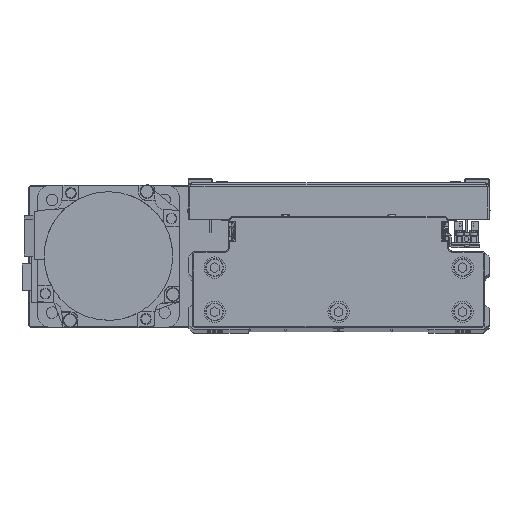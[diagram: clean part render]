
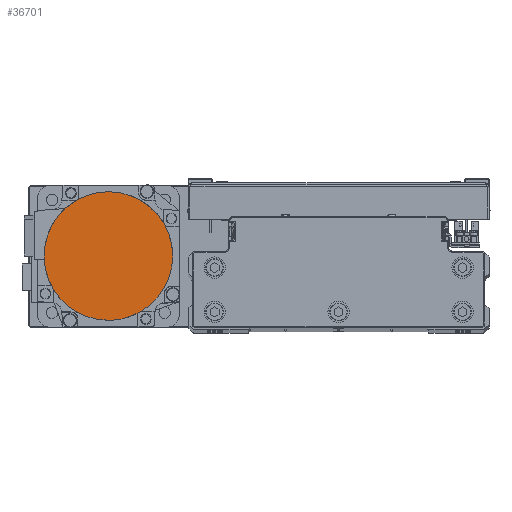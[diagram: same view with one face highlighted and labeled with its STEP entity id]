
A CAD part, top view. The second image highlights one B-rep face of the part: STEP entity #36701.
In plain terms, the highlighted planar face has unit normal (0, 0, 1) as drawn and (0, 0, -1) by its records, which use the part's own axes.
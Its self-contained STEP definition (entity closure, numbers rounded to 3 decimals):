
#232 = DIRECTION ( 'NONE',  ( 0., 0., 1. ) ) ;
#1247 = ORIENTED_EDGE ( 'NONE', *, *, #13537, .F. ) ;
#1422 = CIRCLE ( 'NONE', #7276, 36.3 ) ;
#2113 = CARTESIAN_POINT ( 'NONE',  ( -11.696, 34.446, -122.2 ) ) ;
#2326 = CARTESIAN_POINT ( 'NONE',  ( -36.3, 0., -122.2 ) ) ;
#2367 = DIRECTION ( 'NONE',  ( 0., 0., 1. ) ) ;
#3069 = CARTESIAN_POINT ( 'NONE',  ( -32.628, -16.086, -122.2 ) ) ;
#5012 = CARTESIAN_POINT ( 'NONE',  ( -36.3, 0., -122.2 ) ) ;
#5552 = CARTESIAN_POINT ( 'NONE',  ( -2.376, 36.3, -122.2 ) ) ;
#5768 = CARTESIAN_POINT ( 'NONE',  ( -35.139, 9.412, -122.2 ) ) ;
#5806 = FACE_OUTER_BOUND ( 'NONE', #30659, .T. ) ;
#6155 = DIRECTION ( 'NONE',  ( 0., 0., 1. ) ) ;
#6244 = EDGE_CURVE ( 'NONE', #9549, #44007, #1422, .T. ) ;
#6492 = CARTESIAN_POINT ( 'NONE',  ( -36.066, -4.752, -122.2 ) ) ;
#6719 = CARTESIAN_POINT ( 'NONE',  ( -4.752, -36.066, -122.2 ) ) ;
#7276 = AXIS2_PLACEMENT_3D ( 'NONE', #31518, #232, #14194 ) ;
#7501 = B_SPLINE_CURVE_WITH_KNOTS ( 'NONE', 3,
 ( #23840, #37778, #6492, #20417, #34349, #3069, #17007, #30929, #44828, #13604, #27490, #41421, #10163, #24061, #37999, #6719, #20643, #34583 ),
 .UNSPECIFIED., .F., .F.,
 ( 4, 2, 2, 2, 2, 2, 2, 2, 4 ),
 ( 0., 0.125, 0.25, 0.375, 0.5, 0.625, 0.75, 0.875, 1. ),
 .UNSPECIFIED. ) ;
#7629 = AXIS2_PLACEMENT_3D ( 'NONE', #37436, #6155, #20076 ) ;
#9208 = CARTESIAN_POINT ( 'NONE',  ( -31.502, 18.192, -122.2 ) ) ;
#9549 = VERTEX_POINT ( 'NONE', #28673 ) ;
#9777 = ORIENTED_EDGE ( 'NONE', *, *, #6244, .F. ) ;
#10163 = CARTESIAN_POINT ( 'NONE',  ( -16.086, -32.628, -122.2 ) ) ;
#11078 = B_SPLINE_CURVE_WITH_KNOTS ( 'NONE', 3,
 ( #36828, #5552, #19471, #33403, #2113, #16055, #29963, #43867, #12638, #26523, #40469, #9208, #23111, #37054, #5768, #19686, #33623, #2326 ),
 .UNSPECIFIED., .F., .F.,
 ( 4, 2, 2, 2, 2, 2, 2, 2, 4 ),
 ( 0., 0.125, 0.25, 0.375, 0.5, 0.625, 0.75, 0.875, 1. ),
 .UNSPECIFIED. ) ;
#11562 = CARTESIAN_POINT ( 'NONE',  ( 0., 36.3, -122.2 ) ) ;
#12638 = CARTESIAN_POINT ( 'NONE',  ( -23.988, 27.348, -122.2 ) ) ;
#13537 = EDGE_CURVE ( 'NONE', #44007, #14056, #11078, .T. ) ;
#13604 = CARTESIAN_POINT ( 'NONE',  ( -23.988, -27.348, -122.2 ) ) ;
#14056 = VERTEX_POINT ( 'NONE', #5012 ) ;
#14194 = DIRECTION ( 'NONE',  ( -1., 0., 0. ) ) ;
#16055 = CARTESIAN_POINT ( 'NONE',  ( -16.086, 32.628, -122.2 ) ) ;
#16310 = DIRECTION ( 'NONE',  ( 1., 0., 0. ) ) ;
#16350 = ORIENTED_EDGE ( 'NONE', *, *, #38732, .F. ) ;
#17007 = CARTESIAN_POINT ( 'NONE',  ( -31.502, -18.192, -122.2 ) ) ;
#19471 = CARTESIAN_POINT ( 'NONE',  ( -4.752, 36.066, -122.2 ) ) ;
#19686 = CARTESIAN_POINT ( 'NONE',  ( -36.066, 4.752, -122.2 ) ) ;
#19722 = PLANE ( 'NONE',  #35924 ) ;
#20076 = DIRECTION ( 'NONE',  ( -1., 0., 0. ) ) ;
#20417 = CARTESIAN_POINT ( 'NONE',  ( -35.139, -9.412, -122.2 ) ) ;
#20643 = CARTESIAN_POINT ( 'NONE',  ( -2.376, -36.3, -122.2 ) ) ;
#23111 = CARTESIAN_POINT ( 'NONE',  ( -32.628, 16.086, -122.2 ) ) ;
#23840 = CARTESIAN_POINT ( 'NONE',  ( -36.3, 0., -122.2 ) ) ;
#24061 = CARTESIAN_POINT ( 'NONE',  ( -11.696, -34.446, -122.2 ) ) ;
#24758 = EDGE_CURVE ( 'NONE', #14056, #26043, #7501, .T. ) ;
#26043 = VERTEX_POINT ( 'NONE', #30680 ) ;
#26523 = CARTESIAN_POINT ( 'NONE',  ( -27.348, 23.988, -122.2 ) ) ;
#27298 = CIRCLE ( 'NONE', #7629, 36.3 ) ;
#27490 = CARTESIAN_POINT ( 'NONE',  ( -22.143, -28.862, -122.2 ) ) ;
#28673 = CARTESIAN_POINT ( 'NONE',  ( 36.3, 0., -122.2 ) ) ;
#29650 = ORIENTED_EDGE ( 'NONE', *, *, #24758, .F. ) ;
#29963 = CARTESIAN_POINT ( 'NONE',  ( -18.192, 31.502, -122.2 ) ) ;
#30659 = EDGE_LOOP ( 'NONE', ( #16350, #29650, #1247, #9777 ) ) ;
#30680 = CARTESIAN_POINT ( 'NONE',  ( 0., -36.3, -122.2 ) ) ;
#30929 = CARTESIAN_POINT ( 'NONE',  ( -28.862, -22.143, -122.2 ) ) ;
#31518 = CARTESIAN_POINT ( 'NONE',  ( 0., 0., -122.2 ) ) ;
#33403 = CARTESIAN_POINT ( 'NONE',  ( -9.412, 35.139, -122.2 ) ) ;
#33623 = CARTESIAN_POINT ( 'NONE',  ( -36.3, 2.376, -122.2 ) ) ;
#33661 = CARTESIAN_POINT ( 'NONE',  ( 0., 0., -122.2 ) ) ;
#34349 = CARTESIAN_POINT ( 'NONE',  ( -34.446, -11.696, -122.2 ) ) ;
#34583 = CARTESIAN_POINT ( 'NONE',  ( 0., -36.3, -122.2 ) ) ;
#35924 = AXIS2_PLACEMENT_3D ( 'NONE', #33661, #2367, #16310 ) ;
#36701 = ADVANCED_FACE ( 'NONE', ( #5806 ), #19722, .F. ) ;
#36828 = CARTESIAN_POINT ( 'NONE',  ( 0., 36.3, -122.2 ) ) ;
#37054 = CARTESIAN_POINT ( 'NONE',  ( -34.446, 11.696, -122.2 ) ) ;
#37436 = CARTESIAN_POINT ( 'NONE',  ( 0., 0., -122.2 ) ) ;
#37778 = CARTESIAN_POINT ( 'NONE',  ( -36.3, -2.376, -122.2 ) ) ;
#37999 = CARTESIAN_POINT ( 'NONE',  ( -9.412, -35.139, -122.2 ) ) ;
#38732 = EDGE_CURVE ( 'NONE', #26043, #9549, #27298, .T. ) ;
#40469 = CARTESIAN_POINT ( 'NONE',  ( -28.862, 22.143, -122.2 ) ) ;
#41421 = CARTESIAN_POINT ( 'NONE',  ( -18.192, -31.502, -122.2 ) ) ;
#43867 = CARTESIAN_POINT ( 'NONE',  ( -22.143, 28.862, -122.2 ) ) ;
#44007 = VERTEX_POINT ( 'NONE', #11562 ) ;
#44828 = CARTESIAN_POINT ( 'NONE',  ( -27.348, -23.988, -122.2 ) ) ;
